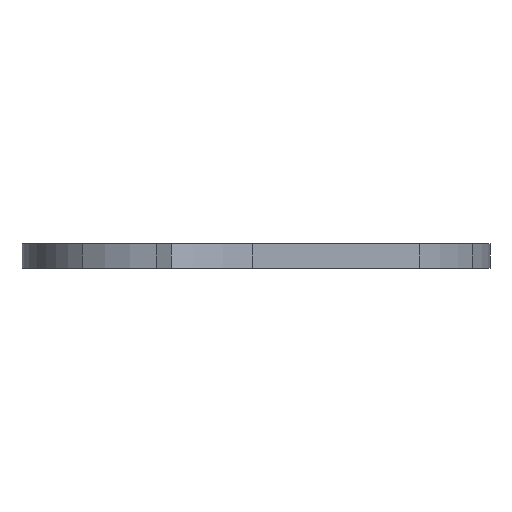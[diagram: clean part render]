
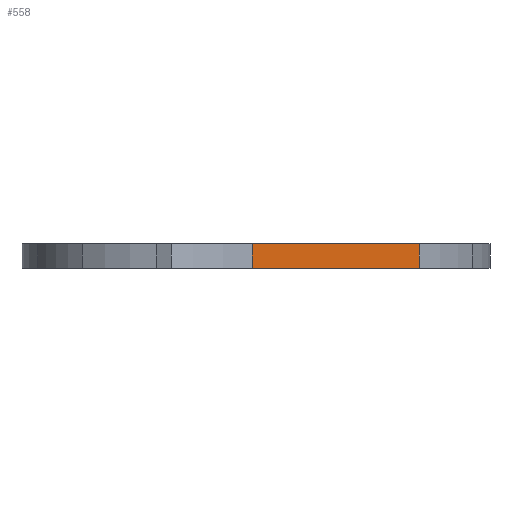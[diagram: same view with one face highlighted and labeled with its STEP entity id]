
A CAD part, front view. The second image highlights one B-rep face of the part: STEP entity #558.
In plain terms, the highlighted planar face has unit normal (0, -1, 0).
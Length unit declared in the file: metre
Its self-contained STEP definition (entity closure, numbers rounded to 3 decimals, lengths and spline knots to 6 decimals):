
#210=ORIENTED_EDGE('',*,*,#358,.T.);
#211=ORIENTED_EDGE('',*,*,#359,.T.);
#212=ORIENTED_EDGE('',*,*,#355,.F.);
#213=ORIENTED_EDGE('',*,*,#360,.F.);
#355=EDGE_CURVE('',#417,#418,#435,.T.);
#358=EDGE_CURVE('',#419,#420,#436,.F.);
#359=EDGE_CURVE('',#420,#418,#437,.T.);
#360=EDGE_CURVE('',#419,#417,#438,.F.);
#417=VERTEX_POINT('',#1045);
#418=VERTEX_POINT('',#1046);
#419=VERTEX_POINT('',#1051);
#420=VERTEX_POINT('',#1052);
#435=LINE('',#1044,#455);
#436=LINE('',#1050,#456);
#437=LINE('',#1053,#457);
#438=LINE('',#1054,#458);
#455=VECTOR('',#802,1.);
#456=VECTOR('',#809,1.);
#457=VECTOR('',#810,1.);
#458=VECTOR('',#811,1.);
#488=EDGE_LOOP('',(#210,#211,#212,#213));
#519=FACE_BOUND('',#488,.T.);
#527=PLANE('',#640);
#558=ADVANCED_FACE('',(#519),#527,.T.);
#640=AXIS2_PLACEMENT_3D('',#1049,#807,#808);
#802=DIRECTION('',(0.,0.,-1.));
#807=DIRECTION('',(0.,-1.,0.));
#808=DIRECTION('',(1.,0.,0.));
#809=DIRECTION('',(0.,0.,1.));
#810=DIRECTION('',(1.,0.,0.));
#811=DIRECTION('',(-1.,0.,0.));
#1044=CARTESIAN_POINT('',(-0.022318,-0.000932,-0.03));
#1045=CARTESIAN_POINT('',(-0.022318,-0.000932,-0.03));
#1046=CARTESIAN_POINT('',(-0.022318,-0.000932,-0.03005));
#1049=CARTESIAN_POINT('',(-0.022664,-0.000932,-0.03));
#1050=CARTESIAN_POINT('',(-0.022664,-0.000932,-0.03));
#1051=CARTESIAN_POINT('',(-0.022664,-0.000932,-0.03));
#1052=CARTESIAN_POINT('',(-0.022664,-0.000932,-0.03005));
#1053=CARTESIAN_POINT('',(-0.022664,-0.000932,-0.03005));
#1054=CARTESIAN_POINT('',(-0.022645,-0.000932,-0.03));
